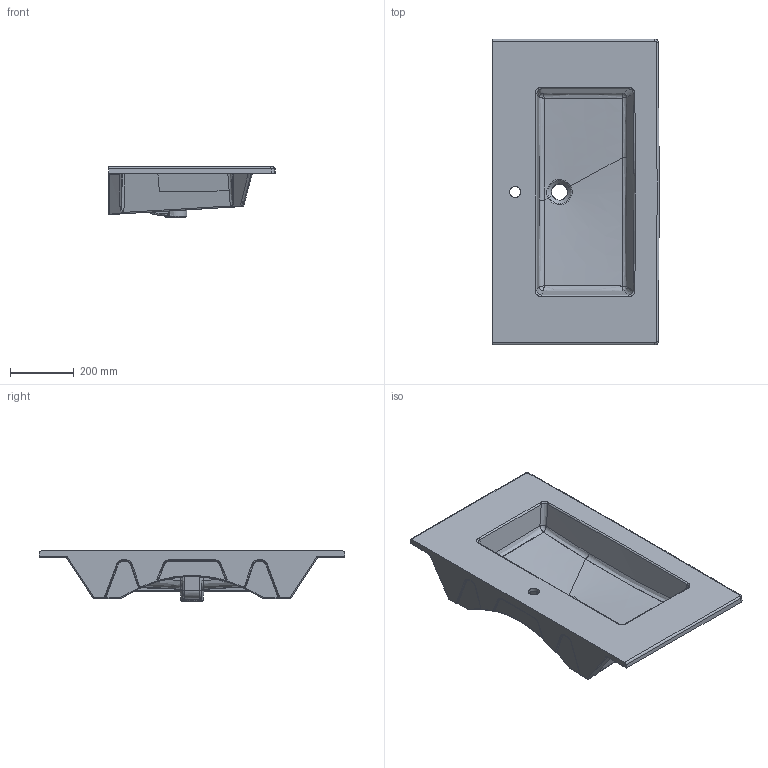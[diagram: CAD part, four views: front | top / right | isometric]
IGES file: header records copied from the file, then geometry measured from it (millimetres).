
Start section: START RECORD GO HERE.
Global section: file name: LAVABO Panarea 96.igs; native system: IBM CATIA IGES - CATIA Version 5 Release 17 ; preprocessor: CATIA Version 5 Release 17 ; author: Luca; organization: PC-Luca; date: 20111215.153632; units: millimetre
Bounding box: 524.05 x 962.1 x 157.4 mm (x, y, z)
Surface area: 1571613.5 mm2 (no closed solid volume)
Topology: 0 solids, 0 shells, 471 faces, 2224 edges, 2175 vertices
Faces by surface type: bspline 471
